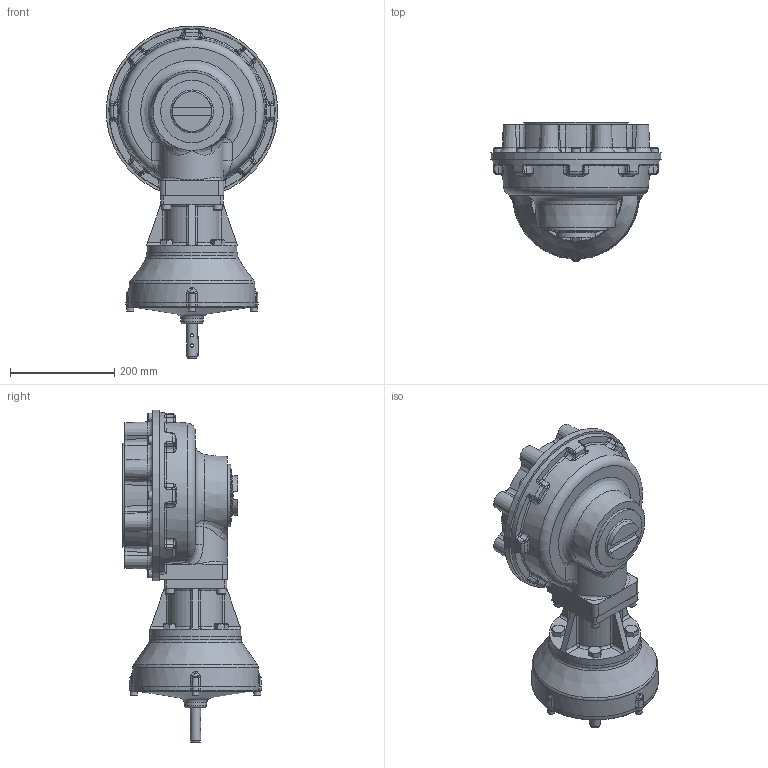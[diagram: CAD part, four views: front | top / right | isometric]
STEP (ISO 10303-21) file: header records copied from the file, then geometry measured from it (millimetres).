
FILE_DESCRIPTION( ( 'Unknown' ), '1' );
FILE_NAME( 'X:/CURRENT/PUB/Hob/HOB-2014/HOB-MPR/HOB-MPR-STP_FILES/PUB-HOB9MPR10-30.4-MAN-F25.stp', 'Unknown', ( 'Unknown' ), ( 'Unknown' ), 'PSStep 16.0.42', 'Unknown', ' ' );
FILE_SCHEMA( ( 'AUTOMOTIVE_DESIGN { 1 0 10303 214 1 1 1 1 }' ) );
Length unit declared in the file: millimetre
Products named in the file (31): 1; 2; 3; 4; 5; 6; 7; 8; 9; 10; 11; 12; 13; 14; 15; 16; 17; 18; 19; 20; 21; 22; trelleborg_trea00200-n7mm_b5c67wtxxcj74kwnwb2box077_01; 23; 24; 25; 26; 27; 28; 29; 30
Bounding box: 328.74 x 267.38 x 638.35 mm (x, y, z)
Surface area: 1431203.2 mm2 (no closed solid volume)
Topology: 0 solids, 3307 shells, 3307 faces, 17050 edges, 16615 vertices
Faces by surface type: cylinder 1075, plane 920, cone 616, bspline 347, torus 283, sphere 66
Full cylindrical faces by diameter (mm): 6 x2, 6.647 x8, 8 x4, 8.5 x12, 10 x8, 10.2 x4, 10.5 x8, 12 x4, 12.5 x4, 13.27 x4, 13.835 x8, 14 x8, 16 x12, 16.5 x4, 18 x4, 19 x1, 20 x2, 20.5 x2, 22.098 x1, 23 x1, 25 x1, 29.5 x1, 29.583 x1, 30 x3, 50 x2, 55.115 x1, 66.675 x1, 90 x2, 94 x1, 99.25 x1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
Entity records: 268887 total; most frequent: CARTESIAN_POINT 120222, DIRECTION 26150, VERTEX_POINT 16467, ORIENTED_EDGE 16436, EDGE_CURVE 16436, AXIS2_PLACEMENT_3D 10115, CIRCLE 7084, LINE 5920
